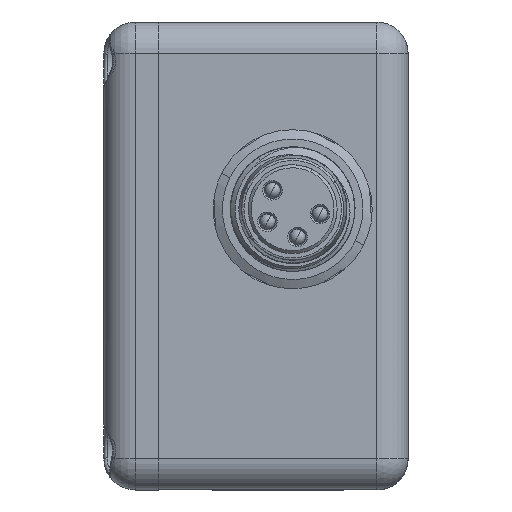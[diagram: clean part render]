
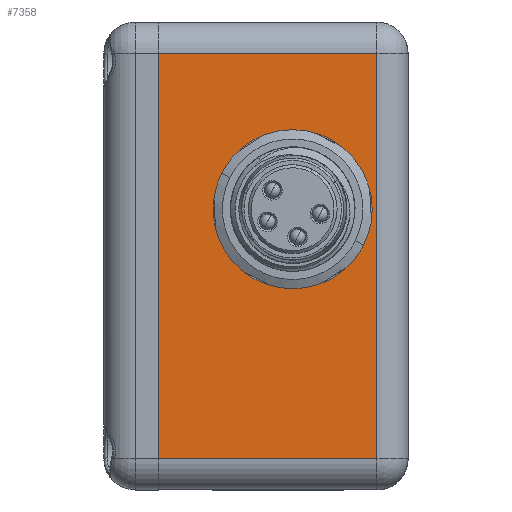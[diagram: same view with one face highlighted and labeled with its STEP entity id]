
A CAD part, left-side view. The second image highlights one B-rep face of the part: STEP entity #7358.
In plain terms, the highlighted planar face has unit normal (-1, 0, 0).
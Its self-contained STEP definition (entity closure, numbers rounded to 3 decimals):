
#72 = VERTEX_POINT ( 'NONE', #12937 ) ;
#373 = CARTESIAN_POINT ( 'NONE',  ( -30., 7.4, 3. ) ) ;
#1070 = DIRECTION ( 'NONE',  ( 1., 0., 0. ) ) ;
#1556 = VERTEX_POINT ( 'NONE', #6567 ) ;
#2179 = CARTESIAN_POINT ( 'NONE',  ( -30., 2., -15. ) ) ;
#2958 = CARTESIAN_POINT ( 'NONE',  ( -30., 7.4, 8.1 ) ) ;
#3557 = CIRCLE ( 'NONE', #13297, 5.1 ) ;
#3738 = FACE_BOUND ( 'NONE', #20030, .T. ) ;
#3848 = EDGE_CURVE ( 'NONE', #1556, #11780, #22353, .T. ) ;
#4250 = LINE ( 'NONE', #16629, #37293 ) ;
#4985 = VECTOR ( 'NONE', #10599, 1000. ) ;
#6567 = CARTESIAN_POINT ( 'NONE',  ( -30., 16., -13. ) ) ;
#6996 = PLANE ( 'NONE',  #38978 ) ;
#7358 = ADVANCED_FACE ( 'NONE', ( #3738, #13257 ), #6996, .F. ) ;
#9984 = ORIENTED_EDGE ( 'NONE', *, *, #36085, .F. ) ;
#10599 = DIRECTION ( 'NONE',  ( 0., 0., 1. ) ) ;
#11628 = CIRCLE ( 'NONE', #29137, 5.1 ) ;
#11780 = VERTEX_POINT ( 'NONE', #34725 ) ;
#12937 = CARTESIAN_POINT ( 'NONE',  ( -30., 7.4, -2.1 ) ) ;
#13257 = FACE_OUTER_BOUND ( 'NONE', #19880, .T. ) ;
#13297 = AXIS2_PLACEMENT_3D ( 'NONE', #36440, #14911, #17174 ) ;
#13640 = CARTESIAN_POINT ( 'NONE',  ( -30., 2., -13. ) ) ;
#13825 = CARTESIAN_POINT ( 'NONE',  ( -30., 16., -15. ) ) ;
#14191 = DIRECTION ( 'NONE',  ( 0., 0., 1. ) ) ;
#14911 = DIRECTION ( 'NONE',  ( -1., 0., 0. ) ) ;
#15822 = CARTESIAN_POINT ( 'NONE',  ( -30., 2., 13. ) ) ;
#16629 = CARTESIAN_POINT ( 'NONE',  ( -30., 16., 13. ) ) ;
#17174 = DIRECTION ( 'NONE',  ( 0., 0., 1. ) ) ;
#17622 = LINE ( 'NONE', #2179, #39887 ) ;
#18355 = EDGE_CURVE ( 'NONE', #1556, #28959, #32568, .T. ) ;
#19865 = VERTEX_POINT ( 'NONE', #15822 ) ;
#19880 = EDGE_LOOP ( 'NONE', ( #20129, #27481, #35495, #30022 ) ) ;
#20030 = EDGE_LOOP ( 'NONE', ( #9984, #34147 ) ) ;
#20129 = ORIENTED_EDGE ( 'NONE', *, *, #3848, .F. ) ;
#22353 = LINE ( 'NONE', #13825, #4985 ) ;
#25674 = DIRECTION ( 'NONE',  ( 0., -1., 0. ) ) ;
#26560 = VERTEX_POINT ( 'NONE', #2958 ) ;
#27481 = ORIENTED_EDGE ( 'NONE', *, *, #18355, .T. ) ;
#28693 = DIRECTION ( 'NONE',  ( 0., 0., -1. ) ) ;
#28959 = VERTEX_POINT ( 'NONE', #13640 ) ;
#29137 = AXIS2_PLACEMENT_3D ( 'NONE', #373, #30629, #31053 ) ;
#29567 = EDGE_CURVE ( 'NONE', #19865, #11780, #4250, .T. ) ;
#29917 = EDGE_CURVE ( 'NONE', #72, #26560, #3557, .T. ) ;
#30022 = ORIENTED_EDGE ( 'NONE', *, *, #29567, .T. ) ;
#30629 = DIRECTION ( 'NONE',  ( -1., 0., 0. ) ) ;
#31053 = DIRECTION ( 'NONE',  ( 0., 0., 1. ) ) ;
#31765 = CARTESIAN_POINT ( 'NONE',  ( -30., 16., -13. ) ) ;
#32473 = DIRECTION ( 'NONE',  ( 0., 1., 0. ) ) ;
#32568 = LINE ( 'NONE', #31765, #35443 ) ;
#34147 = ORIENTED_EDGE ( 'NONE', *, *, #29917, .F. ) ;
#34725 = CARTESIAN_POINT ( 'NONE',  ( -30., 16., 13. ) ) ;
#34787 = CARTESIAN_POINT ( 'NONE',  ( -30., 16., -15. ) ) ;
#35443 = VECTOR ( 'NONE', #25674, 1000. ) ;
#35495 = ORIENTED_EDGE ( 'NONE', *, *, #37364, .T. ) ;
#36085 = EDGE_CURVE ( 'NONE', #26560, #72, #11628, .T. ) ;
#36440 = CARTESIAN_POINT ( 'NONE',  ( -30., 7.4, 3. ) ) ;
#37293 = VECTOR ( 'NONE', #32473, 1000. ) ;
#37364 = EDGE_CURVE ( 'NONE', #28959, #19865, #17622, .T. ) ;
#38978 = AXIS2_PLACEMENT_3D ( 'NONE', #34787, #1070, #28693 ) ;
#39887 = VECTOR ( 'NONE', #14191, 1000. ) ;
